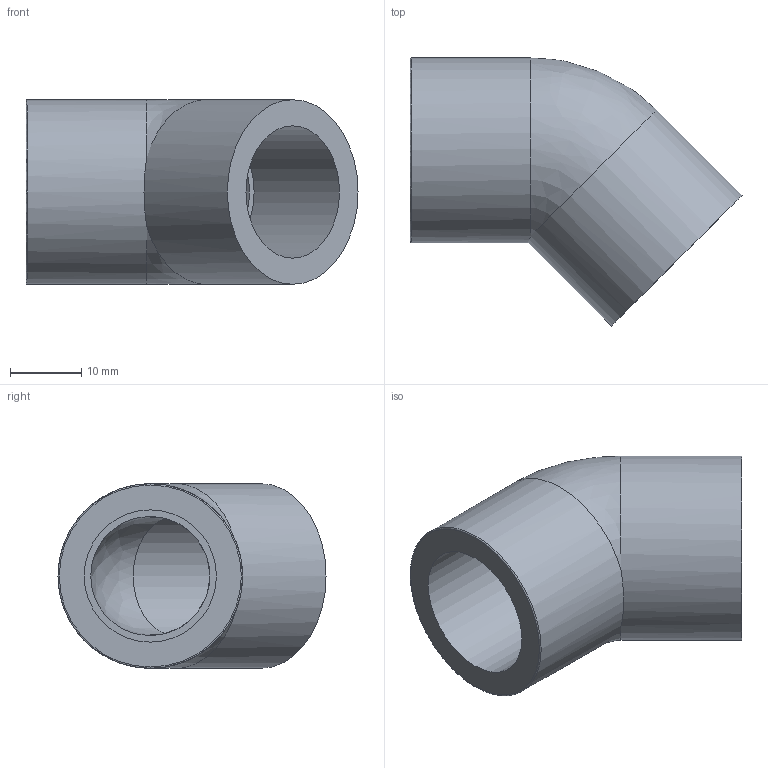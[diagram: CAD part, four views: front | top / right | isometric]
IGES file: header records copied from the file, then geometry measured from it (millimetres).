
Global section: file name: 054501005.ipt; native system: Autodesk Inventor 2015; preprocessor: unknown; author: KIM; date: 20180927.115354; units: millimetre
Bounding box: 46.75 x 37.75 x 26 mm (x, y, z)
Volume: 11776.6 mm3; surface area: 6656 mm2
Topology: 1 solids, 1 shells, 11 faces, 26 edges, 17 vertices
Faces by surface type: revolution 4, plane 4, cylinder 2, bspline 1
Full cylindrical faces by diameter (mm): 26 x2
